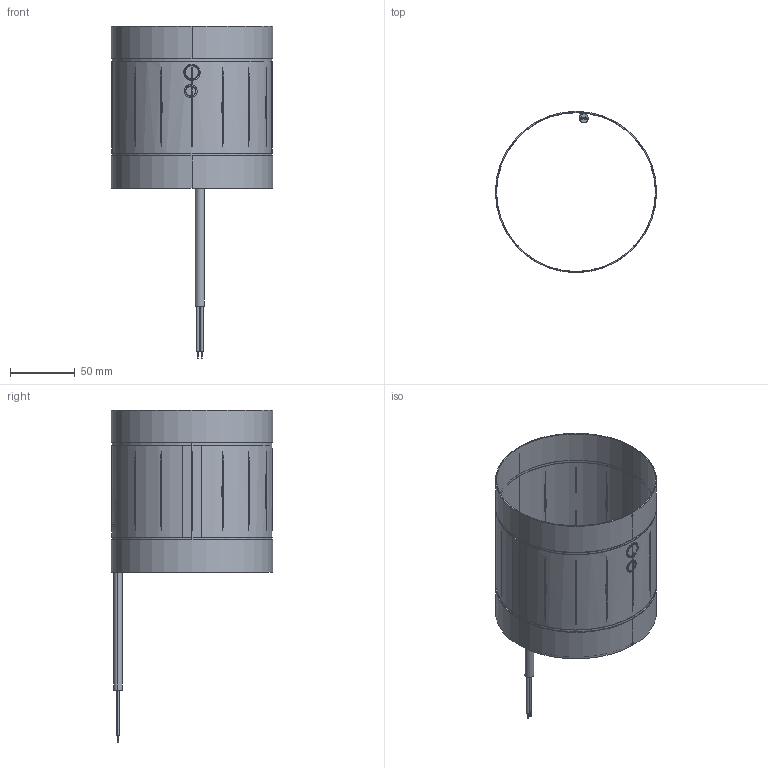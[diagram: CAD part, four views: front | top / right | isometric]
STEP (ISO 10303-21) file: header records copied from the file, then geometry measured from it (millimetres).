
FILE_DESCRIPTION (( 'STEP AP203' ), '1' );
FILE_NAME ('136068-00_EM125E202.STEP', '2016-12-06T10:27:54', ( '' ), ( '' ), 'SwSTEP 2.0', 'SolidWorks 2012', '' );
FILE_SCHEMA (( 'CONFIG_CONTROL_DESIGN' ));
Length unit declared in the file: millimetre
Products named in the file (1): 136068-00_EM125E202
Bounding box: 124.04 x 124.04 x 255.5 mm (x, y, z)
Surface area: 100459.7 mm2 (no closed solid volume)
Topology: 0 solids, 2 shells, 132 faces, 437 edges, 296 vertices
Faces by surface type: cylinder 57, bspline 39, plane 33, cone 3
Entity records: 9656 total; most frequent: CARTESIAN_POINT 6293, ORIENTED_EDGE 688, DIRECTION 557, EDGE_CURVE 437, VERTEX_POINT 296, AXIS2_PLACEMENT_3D 228, B_SPLINE_CURVE_WITH_KNOTS 194, EDGE_LOOP 159
